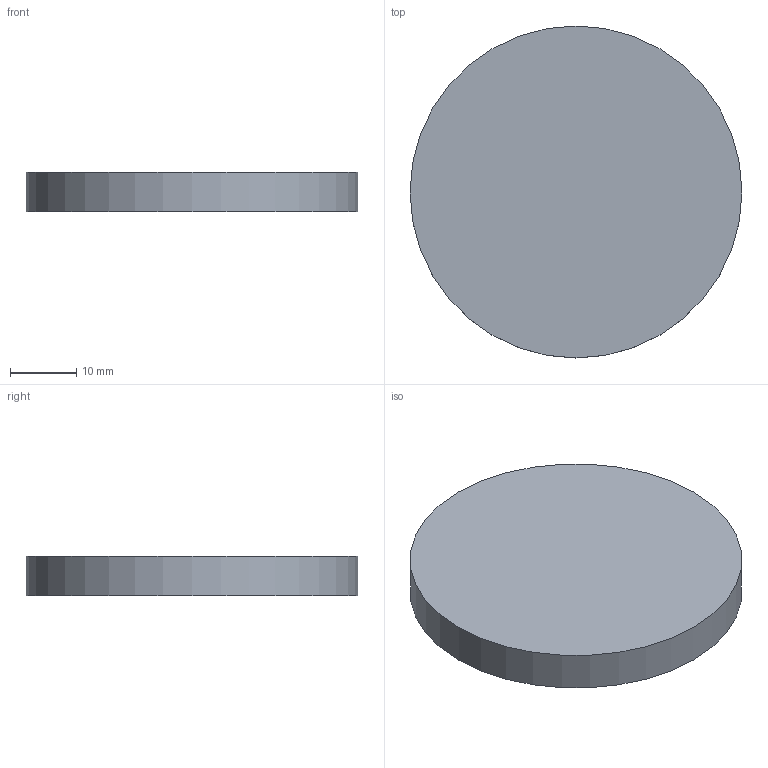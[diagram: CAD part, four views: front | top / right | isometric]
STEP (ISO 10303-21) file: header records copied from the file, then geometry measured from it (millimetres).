
FILE_DESCRIPTION(('Open CASCADE Model'),'2;1');
FILE_NAME('Open CASCADE Shape Model','2026-10-04T01:02:27',('Author'),( 'Open CASCADE'),'Open CASCADE STEP processor 8.0','Open CASCADE 8.0' ,'Unknown');
FILE_SCHEMA(('AUTOMOTIVE_DESIGN { 1 0 10303 214 1 1 1 1 }'));
Length unit declared in the file: millimetre
Products named in the file (1): Open CASCADE STEP translator 8.0 119
Bounding box: 50 x 50 x 6 mm (x, y, z)
Volume: 11781 mm3; surface area: 4869.5 mm2
Topology: 1 solids, 1 shells, 3 faces, 3 edges, 2 vertices
Faces by surface type: plane 2, cylinder 1
Full cylindrical faces by diameter (mm): 50 x1
Entity records: 108 total; most frequent: DIRECTION 19, CARTESIAN_POINT 15, AXIS2_PLACEMENT_3D 6, ORIENTED_EDGE 6, PCURVE 6, DEFINITIONAL_REPRESENTATION 6, LINE 5, VECTOR 5
